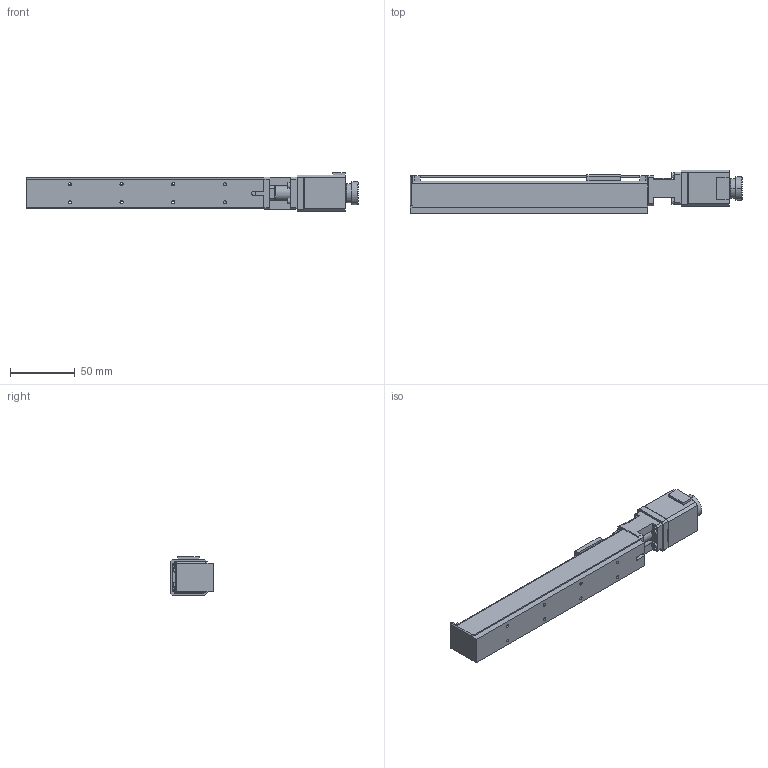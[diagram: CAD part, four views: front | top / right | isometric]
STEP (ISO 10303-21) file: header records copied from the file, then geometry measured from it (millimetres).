
FILE_DESCRIPTION (( 'STEP AP203' ), '1' );
FILE_NAME ('FAS-120-ER.STEP', '2015-08-25T04:57:14', ( '' ), ( '' ), 'SwSTEP 2.0', 'SolidWorks 2015', '' );
FILE_SCHEMA (( 'CONFIG_CONTROL_DESIGN' ));
Length unit declared in the file: millimetre
Products named in the file (1): FAS-120-ER
Bounding box: 257 x 33.5 x 30 mm (x, y, z)
Volume: 90283.6 mm3; surface area: 50367.9 mm2
Topology: 5 solids, 9 shells, 253 faces, 639 edges, 410 vertices
Faces by surface type: plane 147, cylinder 90, cone 14, sphere 2
Entity records: 7676 total; most frequent: CARTESIAN_POINT 1325, DIRECTION 1321, ORIENTED_EDGE 1274, EDGE_CURVE 637, LINE 445, VECTOR 445, AXIS2_PLACEMENT_3D 438, VERTEX_POINT 410
